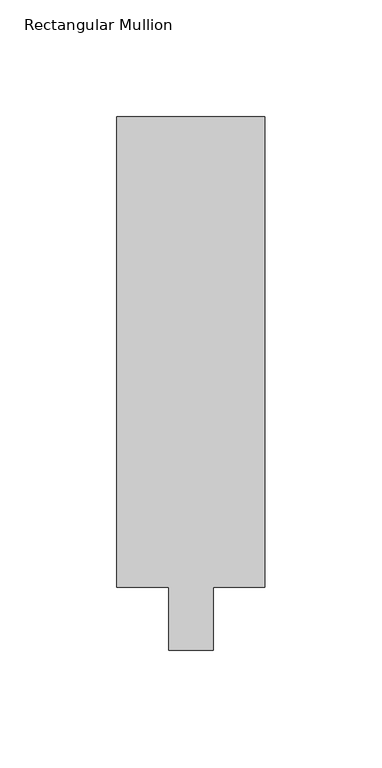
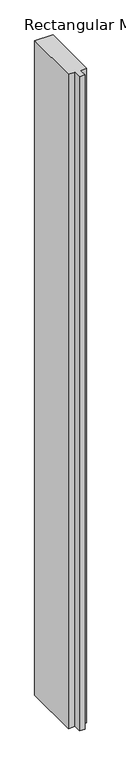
"""IFC4 building model written with IfcOpenShell, lengths in millimetres: member geometry."""

from ifc_helpers import new_model, si_unit, frame, origin, place, context, project, spatial, polyline, outline, extrude, source, transform, mapped, element, save


def rectangular_mullion_2714cfa0(model_context):
    return source(origin(), model_context, "Body", "SweptSolid", [
        extrude(outline(polyline([(-63.5, 228.6), (0.0, 228.6), (0.0, 26.9875), (-22.225, 26.9875), (-22.225, 0.0), (-41.275, 0.0), (-41.275, 26.9875), (-63.5, 26.9875), (-63.5, 228.6)])), frame((0.0, 0.0, -2389.4168056), z_axis=(0.0, 0.0, 1.0), x_axis=(1.0, 0.0, 0.0)), (0.0, 0.0, 1.0), 2389.4168056),
    ])


if __name__ == "__main__":
    model = new_model("IFC4")
    model_context = context("Model", 3, world=origin())
    ifc_project = project(units=[si_unit("LENGTHUNIT", "METRE", prefix="MILLI")], contexts=[model_context])
    site = spatial("IfcSite", under=ifc_project)
    building = spatial("IfcBuilding", under=site)
    placement = place(None, origin())
    rectangular_mullion_shape = rectangular_mullion_2714cfa0(model_context)
    element("IfcMember", 1, ObjectType="Rectangular Mullion : 2 1/2\" x 8\" - Capless", at=placement, inside=building, context=model_context, shape_type="MappedRepresentation", body=[
        mapped(rectangular_mullion_shape, transform((0.0, 0.0, 0.0), x_axis=(1.0, 0.0, 0.0), y_axis=(0.0, 1.0, 0.0), z_axis=(0.0, 0.0, 1.0))),
    ])
    save(model, "model.ifc")
